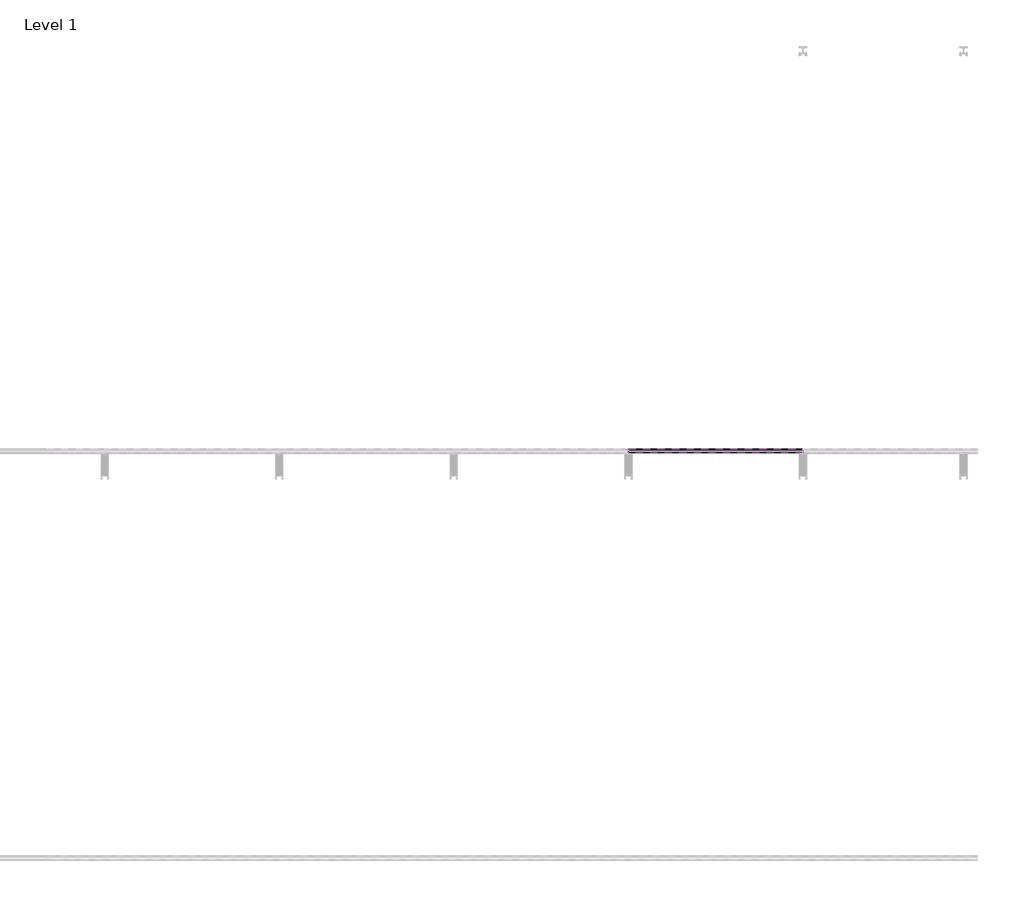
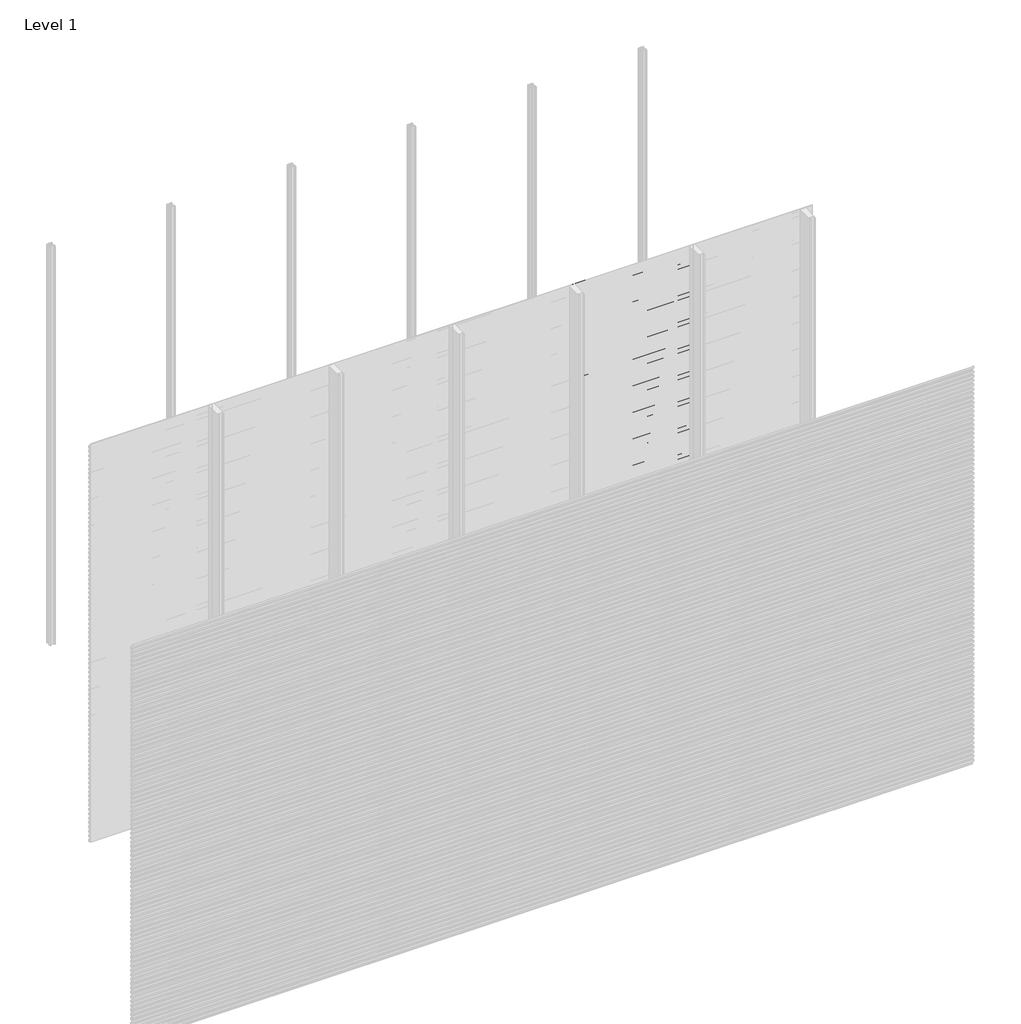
# One storey, part 20 of 96: 76 proxies.
"""IFC4 building model written with IfcOpenShell, lengths in millimetres."""

from ifc_helpers import new_model, si_unit, frame, origin, place, context, project, spatial, polyline, outline, extrude, element, save

model = new_model("IFC4")

# Units and contexts
model_context = context("Model", 3, world=origin())
ifc_project = project(units=[si_unit("LENGTHUNIT", "METRE", prefix="MILLI")], contexts=[model_context])

# Site, building, storey
site = spatial("IfcSite", under=ifc_project)
building = spatial("IfcBuilding", under=site)
storey = spatial("IfcBuildingStorey", under=building, Name="Level 1", Elevation=0.0)

# Proxies
placement = place(None, origin())
element("IfcBuildingElementProxy", 1, Name="Wall Sweeps", at=placement, inside=storey, context=model_context, shape_type="SweptSolid", body=[
    extrude(outline(polyline([(-47977.6, 607.4655033), (-47977.6, 593.1779188), (-47982.4114965, 590.4), (-47982.4114965, 591.6701706), (-47978.85, 593.7264016), (-47978.85, 606.7437382), (-47998.0, 617.8000799), (-47998.0, 632.7), (-47996.75, 632.7), (-47996.75, 618.5217609), (-47977.6, 607.4655033)])), frame((3428.5714286, 0.0, 0.0), z_axis=(1.0, 0.0, 0.0), x_axis=(0.0, 1.0, 0.0)), (0.0, 0.0, 1.0), 857.1428571),
])
element("IfcBuildingElementProxy", 2, Name="Wall Sweeps", at=placement, inside=storey, context=model_context, shape_type="SweptSolid", body=[
    extrude(outline(polyline([(-47977.6, 574.1655033), (-47977.6, 559.8779188), (-47982.4114965, 557.1), (-47982.4114965, 558.3701706), (-47978.85, 560.4264016), (-47978.85, 573.4437382), (-47998.0, 584.5000799), (-47998.0, 599.4), (-47996.75, 599.4), (-47996.75, 585.2217609), (-47977.6, 574.1655033)])), frame((3428.5714286, 0.0, 0.0), z_axis=(1.0, 0.0, 0.0), x_axis=(0.0, 1.0, 0.0)), (0.0, 0.0, 1.0), 857.1428571),
])
element("IfcBuildingElementProxy", 3, Name="Wall Sweeps", at=placement, inside=storey, context=model_context, shape_type="SweptSolid", body=[
    extrude(outline(polyline([(-47977.6, 540.8655033), (-47977.6, 526.5779188), (-47982.4114965, 523.8), (-47982.4114965, 525.0701706), (-47978.85, 527.1264016), (-47978.85, 540.1437382), (-47998.0, 551.2000799), (-47998.0, 566.1), (-47996.75, 566.1), (-47996.75, 551.9217609), (-47977.6, 540.8655033)])), frame((3428.5714286, 0.0, 0.0), z_axis=(1.0, 0.0, 0.0), x_axis=(0.0, 1.0, 0.0)), (0.0, 0.0, 1.0), 857.1428571),
])
element("IfcBuildingElementProxy", 4, Name="Wall Sweeps", at=placement, inside=storey, context=model_context, shape_type="SweptSolid", body=[
    extrude(outline(polyline([(-47977.6, 507.5655033), (-47977.6, 493.2779188), (-47982.4114965, 490.5), (-47982.4114965, 491.7701706), (-47978.85, 493.8264016), (-47978.85, 506.8437382), (-47998.0, 517.9000799), (-47998.0, 532.8), (-47996.75, 532.8), (-47996.75, 518.6217609), (-47977.6, 507.5655033)])), frame((3428.5714286, 0.0, 0.0), z_axis=(1.0, 0.0, 0.0), x_axis=(0.0, 1.0, 0.0)), (0.0, 0.0, 1.0), 857.1428571),
])
element("IfcBuildingElementProxy", 5, Name="Wall Sweeps", at=placement, inside=storey, context=model_context, shape_type="SweptSolid", body=[
    extrude(outline(polyline([(-47977.6, 474.2655033), (-47977.6, 459.9779188), (-47982.4114965, 457.2), (-47982.4114965, 458.4701706), (-47978.85, 460.5264016), (-47978.85, 473.5437382), (-47998.0, 484.6000799), (-47998.0, 499.5), (-47996.75, 499.5), (-47996.75, 485.3217609), (-47977.6, 474.2655033)])), frame((3428.5714286, 0.0, 0.0), z_axis=(1.0, 0.0, 0.0), x_axis=(0.0, 1.0, 0.0)), (0.0, 0.0, 1.0), 857.1428571),
])
element("IfcBuildingElementProxy", 6, Name="Wall Sweeps", at=placement, inside=storey, context=model_context, shape_type="SweptSolid", body=[
    extrude(outline(polyline([(-47977.6, 440.9655033), (-47977.6, 426.6779188), (-47982.4114965, 423.9), (-47982.4114965, 425.1701706), (-47978.85, 427.2264016), (-47978.85, 440.2437382), (-47998.0, 451.3000799), (-47998.0, 466.2), (-47996.75, 466.2), (-47996.75, 452.0217609), (-47977.6, 440.9655033)])), frame((3428.5714286, 0.0, 0.0), z_axis=(1.0, 0.0, 0.0), x_axis=(0.0, 1.0, 0.0)), (0.0, 0.0, 1.0), 857.1428571),
])
element("IfcBuildingElementProxy", 7, Name="Wall Sweeps", at=placement, inside=storey, context=model_context, shape_type="SweptSolid", body=[
    extrude(outline(polyline([(-47977.6, 407.6655033), (-47977.6, 393.3779188), (-47982.4114965, 390.6), (-47982.4114965, 391.8701706), (-47978.85, 393.9264016), (-47978.85, 406.9437382), (-47998.0, 418.0000799), (-47998.0, 432.9), (-47996.75, 432.9), (-47996.75, 418.7217609), (-47977.6, 407.6655033)])), frame((3428.5714286, 0.0, 0.0), z_axis=(1.0, 0.0, 0.0), x_axis=(0.0, 1.0, 0.0)), (0.0, 0.0, 1.0), 857.1428571),
])
element("IfcBuildingElementProxy", 8, Name="Wall Sweeps", at=placement, inside=storey, context=model_context, shape_type="SweptSolid", body=[
    extrude(outline(polyline([(-47977.6, 374.3655033), (-47977.6, 360.0779188), (-47982.4114965, 357.3), (-47982.4114965, 358.5701706), (-47978.85, 360.6264016), (-47978.85, 373.6437382), (-47998.0, 384.7000799), (-47998.0, 399.6), (-47996.75, 399.6), (-47996.75, 385.4217609), (-47977.6, 374.3655033)])), frame((3428.5714286, 0.0, 0.0), z_axis=(1.0, 0.0, 0.0), x_axis=(0.0, 1.0, 0.0)), (0.0, 0.0, 1.0), 857.1428571),
])
element("IfcBuildingElementProxy", 9, Name="Wall Sweeps", at=placement, inside=storey, context=model_context, shape_type="SweptSolid", body=[
    extrude(outline(polyline([(-47977.6, 341.0655033), (-47977.6, 326.7779188), (-47982.4114965, 324.0), (-47982.4114965, 325.2701706), (-47978.85, 327.3264016), (-47978.85, 340.3437382), (-47998.0, 351.4000799), (-47998.0, 366.3), (-47996.75, 366.3), (-47996.75, 352.1217609), (-47977.6, 341.0655033)])), frame((3428.5714286, 0.0, 0.0), z_axis=(1.0, 0.0, 0.0), x_axis=(0.0, 1.0, 0.0)), (0.0, 0.0, 1.0), 857.1428571),
])
element("IfcBuildingElementProxy", 10, Name="Wall Sweeps", at=placement, inside=storey, context=model_context, shape_type="SweptSolid", body=[
    extrude(outline(polyline([(-47977.6, 307.7655033), (-47977.6, 293.4779188), (-47982.4114965, 290.7), (-47982.4114965, 291.9701706), (-47978.85, 294.0264016), (-47978.85, 307.0437382), (-47998.0, 318.1000799), (-47998.0, 333.0), (-47996.75, 333.0), (-47996.75, 318.8217609), (-47977.6, 307.7655033)])), frame((3428.5714286, 0.0, 0.0), z_axis=(1.0, 0.0, 0.0), x_axis=(0.0, 1.0, 0.0)), (0.0, 0.0, 1.0), 857.1428571),
])
element("IfcBuildingElementProxy", 11, Name="Wall Sweeps", at=placement, inside=storey, context=model_context, shape_type="SweptSolid", body=[
    extrude(outline(polyline([(-47977.6, 274.4655033), (-47977.6, 260.1779188), (-47982.4114965, 257.4), (-47982.4114965, 258.6701706), (-47978.85, 260.7264016), (-47978.85, 273.7437382), (-47998.0, 284.8000799), (-47998.0, 299.7), (-47996.75, 299.7), (-47996.75, 285.5217609), (-47977.6, 274.4655033)])), frame((3428.5714286, 0.0, 0.0), z_axis=(1.0, 0.0, 0.0), x_axis=(0.0, 1.0, 0.0)), (0.0, 0.0, 1.0), 857.1428571),
])
element("IfcBuildingElementProxy", 12, Name="Wall Sweeps", at=placement, inside=storey, context=model_context, shape_type="SweptSolid", body=[
    extrude(outline(polyline([(-47977.6, 241.1655033), (-47977.6, 226.8779188), (-47982.4114965, 224.1), (-47982.4114965, 225.3701706), (-47978.85, 227.4264016), (-47978.85, 240.4437382), (-47998.0, 251.5000799), (-47998.0, 266.4), (-47996.75, 266.4), (-47996.75, 252.2217609), (-47977.6, 241.1655033)])), frame((3428.5714286, 0.0, 0.0), z_axis=(1.0, 0.0, 0.0), x_axis=(0.0, 1.0, 0.0)), (0.0, 0.0, 1.0), 857.1428571),
])
element("IfcBuildingElementProxy", 13, Name="Wall Sweeps", at=placement, inside=storey, context=model_context, shape_type="SweptSolid", body=[
    extrude(outline(polyline([(-47977.6, 207.8655033), (-47977.6, 193.5779188), (-47982.4114965, 190.8), (-47982.4114965, 192.0701706), (-47978.85, 194.1264016), (-47978.85, 207.1437382), (-47998.0, 218.2000799), (-47998.0, 233.1), (-47996.75, 233.1), (-47996.75, 218.9217609), (-47977.6, 207.8655033)])), frame((3428.5714286, 0.0, 0.0), z_axis=(1.0, 0.0, 0.0), x_axis=(0.0, 1.0, 0.0)), (0.0, 0.0, 1.0), 857.1428571),
])
element("IfcBuildingElementProxy", 14, Name="Wall Sweeps", at=placement, inside=storey, context=model_context, shape_type="SweptSolid", body=[
    extrude(outline(polyline([(-47977.6, 174.5655033), (-47977.6, 160.2779188), (-47982.4114965, 157.5), (-47982.4114965, 158.7701706), (-47978.85, 160.8264016), (-47978.85, 173.8437382), (-47998.0, 184.9000799), (-47998.0, 199.8), (-47996.75, 199.8), (-47996.75, 185.6217609), (-47977.6, 174.5655033)])), frame((3428.5714286, 0.0, 0.0), z_axis=(1.0, 0.0, 0.0), x_axis=(0.0, 1.0, 0.0)), (0.0, 0.0, 1.0), 857.1428571),
])
element("IfcBuildingElementProxy", 15, Name="Wall Sweeps", at=placement, inside=storey, context=model_context, shape_type="SweptSolid", body=[
    extrude(outline(polyline([(-47977.6, 141.2655033), (-47977.6, 126.9779188), (-47982.4114965, 124.2), (-47982.4114965, 125.4701706), (-47978.85, 127.5264016), (-47978.85, 140.5437382), (-47998.0, 151.6000799), (-47998.0, 166.5), (-47996.75, 166.5), (-47996.75, 152.3217609), (-47977.6, 141.2655033)])), frame((3428.5714286, 0.0, 0.0), z_axis=(1.0, 0.0, 0.0), x_axis=(0.0, 1.0, 0.0)), (0.0, 0.0, 1.0), 857.1428571),
])
element("IfcBuildingElementProxy", 16, Name="Wall Sweeps", at=placement, inside=storey, context=model_context, shape_type="SweptSolid", body=[
    extrude(outline(polyline([(-47977.6, 107.9655033), (-47977.6, 93.6779188), (-47982.4114965, 90.9), (-47982.4114965, 92.1701706), (-47978.85, 94.2264016), (-47978.85, 107.2437382), (-47998.0, 118.3000799), (-47998.0, 133.2), (-47996.75, 133.2), (-47996.75, 119.0217609), (-47977.6, 107.9655033)])), frame((3428.5714286, 0.0, 0.0), z_axis=(1.0, 0.0, 0.0), x_axis=(0.0, 1.0, 0.0)), (0.0, 0.0, 1.0), 857.1428571),
])
element("IfcBuildingElementProxy", 17, Name="Wall Sweeps", at=placement, inside=storey, context=model_context, shape_type="SweptSolid", body=[
    extrude(outline(polyline([(-47977.6, 74.6655033), (-47977.6, 60.3779188), (-47982.4114965, 57.6), (-47982.4114965, 58.8701706), (-47978.85, 60.9264016), (-47978.85, 73.9437382), (-47998.0, 85.0000799), (-47998.0, 99.9), (-47996.75, 99.9), (-47996.75, 85.7217609), (-47977.6, 74.6655033)])), frame((3428.5714286, 0.0, 0.0), z_axis=(1.0, 0.0, 0.0), x_axis=(0.0, 1.0, 0.0)), (0.0, 0.0, 1.0), 857.1428571),
])
element("IfcBuildingElementProxy", 18, Name="Wall Sweeps", at=placement, inside=storey, context=model_context, shape_type="SweptSolid", body=[
    extrude(outline(polyline([(-47977.6, 41.3655033), (-47977.6, 27.0779188), (-47982.4114965, 24.3), (-47982.4114965, 25.5701706), (-47978.85, 27.6264016), (-47978.85, 40.6437382), (-47998.0, 51.7000799), (-47998.0, 66.6), (-47996.75, 66.6), (-47996.75, 52.4217609), (-47977.6, 41.3655033)])), frame((3428.5714286, 0.0, 0.0), z_axis=(1.0, 0.0, 0.0), x_axis=(0.0, 1.0, 0.0)), (0.0, 0.0, 1.0), 857.1428571),
])
element("IfcBuildingElementProxy", 19, Name="Wall Sweeps", at=placement, inside=storey, context=model_context, shape_type="SweptSolid", body=[
    extrude(outline(polyline([(-47977.6, 8.0655033), (-47977.6, -6.2220812), (-47982.4114965, -9.0), (-47982.4114965, -7.7298294), (-47978.85, -5.6735984), (-47978.85, 7.3437382), (-47998.0, 18.4000799), (-47998.0, 33.3), (-47996.75, 33.3), (-47996.75, 19.1217609), (-47977.6, 8.0655033)])), frame((3428.5714286, 0.0, 0.0), z_axis=(1.0, 0.0, 0.0), x_axis=(0.0, 1.0, 0.0)), (0.0, 0.0, 1.0), 857.1428571),
])
element("IfcBuildingElementProxy", 20, Name="Wall Sweeps", at=placement, inside=storey, context=model_context, shape_type="SweptSolid", body=[
    extrude(outline(polyline([(-47977.6, 2971.7655033), (-47977.6, 2957.4779188), (-47982.4114965, 2954.7), (-47982.4114965, 2955.9701706), (-47978.85, 2958.0264016), (-47978.85, 2971.0437382), (-47998.0, 2982.1000799), (-47998.0, 2997.0), (-47996.75, 2997.0), (-47996.75, 2982.8217609), (-47977.6, 2971.7655033)])), frame((4285.7142857, 0.0, 0.0), z_axis=(1.0, 0.0, 0.0), x_axis=(0.0, 1.0, 0.0)), (0.0, 0.0, 1.0), 857.1428571),
])
element("IfcBuildingElementProxy", 21, Name="Wall Sweeps", at=placement, inside=storey, context=model_context, shape_type="SweptSolid", body=[
    extrude(outline(polyline([(-47977.6, 2938.4655033), (-47977.6, 2924.1779188), (-47982.4114965, 2921.4), (-47982.4114965, 2922.6701706), (-47978.85, 2924.7264016), (-47978.85, 2937.7437382), (-47998.0, 2948.8000799), (-47998.0, 2963.7), (-47996.75, 2963.7), (-47996.75, 2949.5217609), (-47977.6, 2938.4655033)])), frame((4285.7142857, 0.0, 0.0), z_axis=(1.0, 0.0, 0.0), x_axis=(0.0, 1.0, 0.0)), (0.0, 0.0, 1.0), 857.1428571),
])
element("IfcBuildingElementProxy", 22, Name="Wall Sweeps", at=placement, inside=storey, context=model_context, shape_type="SweptSolid", body=[
    extrude(outline(polyline([(-47977.6, 2905.1655033), (-47977.6, 2890.8779188), (-47982.4114965, 2888.1), (-47982.4114965, 2889.3701706), (-47978.85, 2891.4264016), (-47978.85, 2904.4437382), (-47998.0, 2915.5000799), (-47998.0, 2930.4), (-47996.75, 2930.4), (-47996.75, 2916.2217609), (-47977.6, 2905.1655033)])), frame((4285.7142857, 0.0, 0.0), z_axis=(1.0, 0.0, 0.0), x_axis=(0.0, 1.0, 0.0)), (0.0, 0.0, 1.0), 857.1428571),
])
element("IfcBuildingElementProxy", 23, Name="Wall Sweeps", at=placement, inside=storey, context=model_context, shape_type="SweptSolid", body=[
    extrude(outline(polyline([(-47977.6, 2871.8655033), (-47977.6, 2857.5779188), (-47982.4114965, 2854.8), (-47982.4114965, 2856.0701706), (-47978.85, 2858.1264016), (-47978.85, 2871.1437382), (-47998.0, 2882.2000799), (-47998.0, 2897.1), (-47996.75, 2897.1), (-47996.75, 2882.9217609), (-47977.6, 2871.8655033)])), frame((4285.7142857, 0.0, 0.0), z_axis=(1.0, 0.0, 0.0), x_axis=(0.0, 1.0, 0.0)), (0.0, 0.0, 1.0), 857.1428571),
])
element("IfcBuildingElementProxy", 24, Name="Wall Sweeps", at=placement, inside=storey, context=model_context, shape_type="SweptSolid", body=[
    extrude(outline(polyline([(-47977.6, 2838.5655033), (-47977.6, 2824.2779188), (-47982.4114965, 2821.5), (-47982.4114965, 2822.7701706), (-47978.85, 2824.8264016), (-47978.85, 2837.8437382), (-47998.0, 2848.9000799), (-47998.0, 2863.8), (-47996.75, 2863.8), (-47996.75, 2849.6217609), (-47977.6, 2838.5655033)])), frame((4285.7142857, 0.0, 0.0), z_axis=(1.0, 0.0, 0.0), x_axis=(0.0, 1.0, 0.0)), (0.0, 0.0, 1.0), 857.1428571),
])
element("IfcBuildingElementProxy", 25, Name="Wall Sweeps", at=placement, inside=storey, context=model_context, shape_type="SweptSolid", body=[
    extrude(outline(polyline([(-47977.6, 2805.2655033), (-47977.6, 2790.9779188), (-47982.4114965, 2788.2), (-47982.4114965, 2789.4701706), (-47978.85, 2791.5264016), (-47978.85, 2804.5437382), (-47998.0, 2815.6000799), (-47998.0, 2830.5), (-47996.75, 2830.5), (-47996.75, 2816.3217609), (-47977.6, 2805.2655033)])), frame((4285.7142857, 0.0, 0.0), z_axis=(1.0, 0.0, 0.0), x_axis=(0.0, 1.0, 0.0)), (0.0, 0.0, 1.0), 857.1428571),
])
element("IfcBuildingElementProxy", 26, Name="Wall Sweeps", at=placement, inside=storey, context=model_context, shape_type="SweptSolid", body=[
    extrude(outline(polyline([(-47977.6, 2771.9655033), (-47977.6, 2757.6779188), (-47982.4114965, 2754.9), (-47982.4114965, 2756.1701706), (-47978.85, 2758.2264016), (-47978.85, 2771.2437382), (-47998.0, 2782.3000799), (-47998.0, 2797.2), (-47996.75, 2797.2), (-47996.75, 2783.0217609), (-47977.6, 2771.9655033)])), frame((4285.7142857, 0.0, 0.0), z_axis=(1.0, 0.0, 0.0), x_axis=(0.0, 1.0, 0.0)), (0.0, 0.0, 1.0), 857.1428571),
])
element("IfcBuildingElementProxy", 27, Name="Wall Sweeps", at=placement, inside=storey, context=model_context, shape_type="SweptSolid", body=[
    extrude(outline(polyline([(-47977.6, 2738.6655033), (-47977.6, 2724.3779188), (-47982.4114965, 2721.6), (-47982.4114965, 2722.8701706), (-47978.85, 2724.9264016), (-47978.85, 2737.9437382), (-47998.0, 2749.0000799), (-47998.0, 2763.9), (-47996.75, 2763.9), (-47996.75, 2749.7217609), (-47977.6, 2738.6655033)])), frame((4285.7142857, 0.0, 0.0), z_axis=(1.0, 0.0, 0.0), x_axis=(0.0, 1.0, 0.0)), (0.0, 0.0, 1.0), 857.1428571),
])
element("IfcBuildingElementProxy", 28, Name="Wall Sweeps", at=placement, inside=storey, context=model_context, shape_type="SweptSolid", body=[
    extrude(outline(polyline([(-47977.6, 2705.3655033), (-47977.6, 2691.0779188), (-47982.4114965, 2688.3), (-47982.4114965, 2689.5701706), (-47978.85, 2691.6264016), (-47978.85, 2704.6437382), (-47998.0, 2715.7000799), (-47998.0, 2730.6), (-47996.75, 2730.6), (-47996.75, 2716.4217609), (-47977.6, 2705.3655033)])), frame((4285.7142857, 0.0, 0.0), z_axis=(1.0, 0.0, 0.0), x_axis=(0.0, 1.0, 0.0)), (0.0, 0.0, 1.0), 857.1428571),
])
element("IfcBuildingElementProxy", 29, Name="Wall Sweeps", at=placement, inside=storey, context=model_context, shape_type="SweptSolid", body=[
    extrude(outline(polyline([(-47977.6, 2672.0655033), (-47977.6, 2657.7779188), (-47982.4114965, 2655.0), (-47982.4114965, 2656.2701706), (-47978.85, 2658.3264016), (-47978.85, 2671.3437382), (-47998.0, 2682.4000799), (-47998.0, 2697.3), (-47996.75, 2697.3), (-47996.75, 2683.1217609), (-47977.6, 2672.0655033)])), frame((4285.7142857, 0.0, 0.0), z_axis=(1.0, 0.0, 0.0), x_axis=(0.0, 1.0, 0.0)), (0.0, 0.0, 1.0), 857.1428571),
])
element("IfcBuildingElementProxy", 30, Name="Wall Sweeps", at=placement, inside=storey, context=model_context, shape_type="SweptSolid", body=[
    extrude(outline(polyline([(-47977.6, 2638.7655033), (-47977.6, 2624.4779188), (-47982.4114965, 2621.7), (-47982.4114965, 2622.9701706), (-47978.85, 2625.0264016), (-47978.85, 2638.0437382), (-47998.0, 2649.1000799), (-47998.0, 2664.0), (-47996.75, 2664.0), (-47996.75, 2649.8217609), (-47977.6, 2638.7655033)])), frame((4285.7142857, 0.0, 0.0), z_axis=(1.0, 0.0, 0.0), x_axis=(0.0, 1.0, 0.0)), (0.0, 0.0, 1.0), 857.1428571),
])
element("IfcBuildingElementProxy", 31, Name="Wall Sweeps", at=placement, inside=storey, context=model_context, shape_type="SweptSolid", body=[
    extrude(outline(polyline([(-47977.6, 2605.4655033), (-47977.6, 2591.1779188), (-47982.4114965, 2588.4), (-47982.4114965, 2589.6701706), (-47978.85, 2591.7264016), (-47978.85, 2604.7437382), (-47998.0, 2615.8000799), (-47998.0, 2630.7), (-47996.75, 2630.7), (-47996.75, 2616.5217609), (-47977.6, 2605.4655033)])), frame((4285.7142857, 0.0, 0.0), z_axis=(1.0, 0.0, 0.0), x_axis=(0.0, 1.0, 0.0)), (0.0, 0.0, 1.0), 857.1428571),
])
element("IfcBuildingElementProxy", 32, Name="Wall Sweeps", at=placement, inside=storey, context=model_context, shape_type="SweptSolid", body=[
    extrude(outline(polyline([(-47977.6, 2572.1655033), (-47977.6, 2557.8779188), (-47982.4114965, 2555.1), (-47982.4114965, 2556.3701706), (-47978.85, 2558.4264016), (-47978.85, 2571.4437382), (-47998.0, 2582.5000799), (-47998.0, 2597.4), (-47996.75, 2597.4), (-47996.75, 2583.2217609), (-47977.6, 2572.1655033)])), frame((4285.7142857, 0.0, 0.0), z_axis=(1.0, 0.0, 0.0), x_axis=(0.0, 1.0, 0.0)), (0.0, 0.0, 1.0), 857.1428571),
])
element("IfcBuildingElementProxy", 33, Name="Wall Sweeps", at=placement, inside=storey, context=model_context, shape_type="SweptSolid", body=[
    extrude(outline(polyline([(-47977.6, 2538.8655033), (-47977.6, 2524.5779188), (-47982.4114965, 2521.8), (-47982.4114965, 2523.0701706), (-47978.85, 2525.1264016), (-47978.85, 2538.1437382), (-47998.0, 2549.2000799), (-47998.0, 2564.1), (-47996.75, 2564.1), (-47996.75, 2549.9217609), (-47977.6, 2538.8655033)])), frame((4285.7142857, 0.0, 0.0), z_axis=(1.0, 0.0, 0.0), x_axis=(0.0, 1.0, 0.0)), (0.0, 0.0, 1.0), 857.1428571),
])
element("IfcBuildingElementProxy", 34, Name="Wall Sweeps", at=placement, inside=storey, context=model_context, shape_type="SweptSolid", body=[
    extrude(outline(polyline([(-47977.6, 2505.5655033), (-47977.6, 2491.2779188), (-47982.4114965, 2488.5), (-47982.4114965, 2489.7701706), (-47978.85, 2491.8264016), (-47978.85, 2504.8437382), (-47998.0, 2515.9000799), (-47998.0, 2530.8), (-47996.75, 2530.8), (-47996.75, 2516.6217609), (-47977.6, 2505.5655033)])), frame((4285.7142857, 0.0, 0.0), z_axis=(1.0, 0.0, 0.0), x_axis=(0.0, 1.0, 0.0)), (0.0, 0.0, 1.0), 857.1428571),
])
element("IfcBuildingElementProxy", 35, Name="Wall Sweeps", at=placement, inside=storey, context=model_context, shape_type="SweptSolid", body=[
    extrude(outline(polyline([(-47977.6, 2472.2655033), (-47977.6, 2457.9779188), (-47982.4114965, 2455.2), (-47982.4114965, 2456.4701706), (-47978.85, 2458.5264016), (-47978.85, 2471.5437382), (-47998.0, 2482.6000799), (-47998.0, 2497.5), (-47996.75, 2497.5), (-47996.75, 2483.3217609), (-47977.6, 2472.2655033)])), frame((4285.7142857, 0.0, 0.0), z_axis=(1.0, 0.0, 0.0), x_axis=(0.0, 1.0, 0.0)), (0.0, 0.0, 1.0), 857.1428571),
])
element("IfcBuildingElementProxy", 36, Name="Wall Sweeps", at=placement, inside=storey, context=model_context, shape_type="SweptSolid", body=[
    extrude(outline(polyline([(-47977.6, 2438.9655033), (-47977.6, 2424.6779188), (-47982.4114965, 2421.9), (-47982.4114965, 2423.1701706), (-47978.85, 2425.2264016), (-47978.85, 2438.2437382), (-47998.0, 2449.3000799), (-47998.0, 2464.2), (-47996.75, 2464.2), (-47996.75, 2450.0217609), (-47977.6, 2438.9655033)])), frame((4285.7142857, 0.0, 0.0), z_axis=(1.0, 0.0, 0.0), x_axis=(0.0, 1.0, 0.0)), (0.0, 0.0, 1.0), 857.1428571),
])
element("IfcBuildingElementProxy", 37, Name="Wall Sweeps", at=placement, inside=storey, context=model_context, shape_type="SweptSolid", body=[
    extrude(outline(polyline([(-47977.6, 2405.6655033), (-47977.6, 2391.3779188), (-47982.4114965, 2388.6), (-47982.4114965, 2389.8701706), (-47978.85, 2391.9264016), (-47978.85, 2404.9437382), (-47998.0, 2416.0000799), (-47998.0, 2430.9), (-47996.75, 2430.9), (-47996.75, 2416.7217609), (-47977.6, 2405.6655033)])), frame((4285.7142857, 0.0, 0.0), z_axis=(1.0, 0.0, 0.0), x_axis=(0.0, 1.0, 0.0)), (0.0, 0.0, 1.0), 857.1428571),
])
element("IfcBuildingElementProxy", 38, Name="Wall Sweeps", at=placement, inside=storey, context=model_context, shape_type="SweptSolid", body=[
    extrude(outline(polyline([(-47977.6, 2372.3655033), (-47977.6, 2358.0779188), (-47982.4114965, 2355.3), (-47982.4114965, 2356.5701706), (-47978.85, 2358.6264016), (-47978.85, 2371.6437382), (-47998.0, 2382.7000799), (-47998.0, 2397.6), (-47996.75, 2397.6), (-47996.75, 2383.4217609), (-47977.6, 2372.3655033)])), frame((4285.7142857, 0.0, 0.0), z_axis=(1.0, 0.0, 0.0), x_axis=(0.0, 1.0, 0.0)), (0.0, 0.0, 1.0), 857.1428571),
])
element("IfcBuildingElementProxy", 39, Name="Wall Sweeps", at=placement, inside=storey, context=model_context, shape_type="SweptSolid", body=[
    extrude(outline(polyline([(-47977.6, 2339.0655033), (-47977.6, 2324.7779188), (-47982.4114965, 2322.0), (-47982.4114965, 2323.2701706), (-47978.85, 2325.3264016), (-47978.85, 2338.3437382), (-47998.0, 2349.4000799), (-47998.0, 2364.3), (-47996.75, 2364.3), (-47996.75, 2350.1217609), (-47977.6, 2339.0655033)])), frame((4285.7142857, 0.0, 0.0), z_axis=(1.0, 0.0, 0.0), x_axis=(0.0, 1.0, 0.0)), (0.0, 0.0, 1.0), 857.1428571),
])
element("IfcBuildingElementProxy", 40, Name="Wall Sweeps", at=placement, inside=storey, context=model_context, shape_type="SweptSolid", body=[
    extrude(outline(polyline([(-47977.6, 2305.7655033), (-47977.6, 2291.4779188), (-47982.4114965, 2288.7), (-47982.4114965, 2289.9701706), (-47978.85, 2292.0264016), (-47978.85, 2305.0437382), (-47998.0, 2316.1000799), (-47998.0, 2331.0), (-47996.75, 2331.0), (-47996.75, 2316.8217609), (-47977.6, 2305.7655033)])), frame((4285.7142857, 0.0, 0.0), z_axis=(1.0, 0.0, 0.0), x_axis=(0.0, 1.0, 0.0)), (0.0, 0.0, 1.0), 857.1428571),
])
element("IfcBuildingElementProxy", 41, Name="Wall Sweeps", at=placement, inside=storey, context=model_context, shape_type="SweptSolid", body=[
    extrude(outline(polyline([(-47977.6, 2272.4655033), (-47977.6, 2258.1779188), (-47982.4114965, 2255.4), (-47982.4114965, 2256.6701706), (-47978.85, 2258.7264016), (-47978.85, 2271.7437382), (-47998.0, 2282.8000799), (-47998.0, 2297.7), (-47996.75, 2297.7), (-47996.75, 2283.5217609), (-47977.6, 2272.4655033)])), frame((4285.7142857, 0.0, 0.0), z_axis=(1.0, 0.0, 0.0), x_axis=(0.0, 1.0, 0.0)), (0.0, 0.0, 1.0), 857.1428571),
])
element("IfcBuildingElementProxy", 42, Name="Wall Sweeps", at=placement, inside=storey, context=model_context, shape_type="SweptSolid", body=[
    extrude(outline(polyline([(-47977.6, 2239.1655033), (-47977.6, 2224.8779188), (-47982.4114965, 2222.1), (-47982.4114965, 2223.3701706), (-47978.85, 2225.4264016), (-47978.85, 2238.4437382), (-47998.0, 2249.5000799), (-47998.0, 2264.4), (-47996.75, 2264.4), (-47996.75, 2250.2217609), (-47977.6, 2239.1655033)])), frame((4285.7142857, 0.0, 0.0), z_axis=(1.0, 0.0, 0.0), x_axis=(0.0, 1.0, 0.0)), (0.0, 0.0, 1.0), 857.1428571),
])
element("IfcBuildingElementProxy", 43, Name="Wall Sweeps", at=placement, inside=storey, context=model_context, shape_type="SweptSolid", body=[
    extrude(outline(polyline([(-47977.6, 2205.8655033), (-47977.6, 2191.5779188), (-47982.4114965, 2188.8), (-47982.4114965, 2190.0701706), (-47978.85, 2192.1264016), (-47978.85, 2205.1437382), (-47998.0, 2216.2000799), (-47998.0, 2231.1), (-47996.75, 2231.1), (-47996.75, 2216.9217609), (-47977.6, 2205.8655033)])), frame((4285.7142857, 0.0, 0.0), z_axis=(1.0, 0.0, 0.0), x_axis=(0.0, 1.0, 0.0)), (0.0, 0.0, 1.0), 857.1428571),
])
element("IfcBuildingElementProxy", 44, Name="Wall Sweeps", at=placement, inside=storey, context=model_context, shape_type="SweptSolid", body=[
    extrude(outline(polyline([(-47977.6, 2172.5655033), (-47977.6, 2158.2779188), (-47982.4114965, 2155.5), (-47982.4114965, 2156.7701706), (-47978.85, 2158.8264016), (-47978.85, 2171.8437382), (-47998.0, 2182.9000799), (-47998.0, 2197.8), (-47996.75, 2197.8), (-47996.75, 2183.6217609), (-47977.6, 2172.5655033)])), frame((4285.7142857, 0.0, 0.0), z_axis=(1.0, 0.0, 0.0), x_axis=(0.0, 1.0, 0.0)), (0.0, 0.0, 1.0), 857.1428571),
])
element("IfcBuildingElementProxy", 45, Name="Wall Sweeps", at=placement, inside=storey, context=model_context, shape_type="SweptSolid", body=[
    extrude(outline(polyline([(-47977.6, 2139.2655033), (-47977.6, 2124.9779188), (-47982.4114965, 2122.2), (-47982.4114965, 2123.4701706), (-47978.85, 2125.5264016), (-47978.85, 2138.5437382), (-47998.0, 2149.6000799), (-47998.0, 2164.5), (-47996.75, 2164.5), (-47996.75, 2150.3217609), (-47977.6, 2139.2655033)])), frame((4285.7142857, 0.0, 0.0), z_axis=(1.0, 0.0, 0.0), x_axis=(0.0, 1.0, 0.0)), (0.0, 0.0, 1.0), 857.1428571),
])
element("IfcBuildingElementProxy", 46, Name="Wall Sweeps", at=placement, inside=storey, context=model_context, shape_type="SweptSolid", body=[
    extrude(outline(polyline([(-47977.6, 2105.9655033), (-47977.6, 2091.6779188), (-47982.4114965, 2088.9), (-47982.4114965, 2090.1701706), (-47978.85, 2092.2264016), (-47978.85, 2105.2437382), (-47998.0, 2116.3000799), (-47998.0, 2131.2), (-47996.75, 2131.2), (-47996.75, 2117.0217609), (-47977.6, 2105.9655033)])), frame((4285.7142857, 0.0, 0.0), z_axis=(1.0, 0.0, 0.0), x_axis=(0.0, 1.0, 0.0)), (0.0, 0.0, 1.0), 857.1428571),
])
element("IfcBuildingElementProxy", 47, Name="Wall Sweeps", at=placement, inside=storey, context=model_context, shape_type="SweptSolid", body=[
    extrude(outline(polyline([(-47977.6, 2072.6655033), (-47977.6, 2058.3779188), (-47982.4114965, 2055.6), (-47982.4114965, 2056.8701706), (-47978.85, 2058.9264016), (-47978.85, 2071.9437382), (-47998.0, 2083.0000799), (-47998.0, 2097.9), (-47996.75, 2097.9), (-47996.75, 2083.7217609), (-47977.6, 2072.6655033)])), frame((4285.7142857, 0.0, 0.0), z_axis=(1.0, 0.0, 0.0), x_axis=(0.0, 1.0, 0.0)), (0.0, 0.0, 1.0), 857.1428571),
])
element("IfcBuildingElementProxy", 48, Name="Wall Sweeps", at=placement, inside=storey, context=model_context, shape_type="SweptSolid", body=[
    extrude(outline(polyline([(-47977.6, 2039.3655033), (-47977.6, 2025.0779188), (-47982.4114965, 2022.3), (-47982.4114965, 2023.5701706), (-47978.85, 2025.6264016), (-47978.85, 2038.6437382), (-47998.0, 2049.7000799), (-47998.0, 2064.6), (-47996.75, 2064.6), (-47996.75, 2050.4217609), (-47977.6, 2039.3655033)])), frame((4285.7142857, 0.0, 0.0), z_axis=(1.0, 0.0, 0.0), x_axis=(0.0, 1.0, 0.0)), (0.0, 0.0, 1.0), 857.1428571),
])
element("IfcBuildingElementProxy", 49, Name="Wall Sweeps", at=placement, inside=storey, context=model_context, shape_type="SweptSolid", body=[
    extrude(outline(polyline([(-47977.6, 2006.0655033), (-47977.6, 1991.7779188), (-47982.4114965, 1989.0), (-47982.4114965, 1990.2701706), (-47978.85, 1992.3264016), (-47978.85, 2005.3437382), (-47998.0, 2016.4000799), (-47998.0, 2031.3), (-47996.75, 2031.3), (-47996.75, 2017.1217609), (-47977.6, 2006.0655033)])), frame((4285.7142857, 0.0, 0.0), z_axis=(1.0, 0.0, 0.0), x_axis=(0.0, 1.0, 0.0)), (0.0, 0.0, 1.0), 857.1428571),
])
element("IfcBuildingElementProxy", 50, Name="Wall Sweeps", at=placement, inside=storey, context=model_context, shape_type="SweptSolid", body=[
    extrude(outline(polyline([(-47977.6, 1972.7655033), (-47977.6, 1958.4779188), (-47982.4114965, 1955.7), (-47982.4114965, 1956.9701706), (-47978.85, 1959.0264016), (-47978.85, 1972.0437382), (-47998.0, 1983.1000799), (-47998.0, 1998.0), (-47996.75, 1998.0), (-47996.75, 1983.8217609), (-47977.6, 1972.7655033)])), frame((4285.7142857, 0.0, 0.0), z_axis=(1.0, 0.0, 0.0), x_axis=(0.0, 1.0, 0.0)), (0.0, 0.0, 1.0), 857.1428571),
])
element("IfcBuildingElementProxy", 51, Name="Wall Sweeps", at=placement, inside=storey, context=model_context, shape_type="SweptSolid", body=[
    extrude(outline(polyline([(-47977.6, 1939.4655033), (-47977.6, 1925.1779188), (-47982.4114965, 1922.4), (-47982.4114965, 1923.6701706), (-47978.85, 1925.7264016), (-47978.85, 1938.7437382), (-47998.0, 1949.8000799), (-47998.0, 1964.7), (-47996.75, 1964.7), (-47996.75, 1950.5217609), (-47977.6, 1939.4655033)])), frame((4285.7142857, 0.0, 0.0), z_axis=(1.0, 0.0, 0.0), x_axis=(0.0, 1.0, 0.0)), (0.0, 0.0, 1.0), 857.1428571),
])
element("IfcBuildingElementProxy", 52, Name="Wall Sweeps", at=placement, inside=storey, context=model_context, shape_type="SweptSolid", body=[
    extrude(outline(polyline([(-47977.6, 1906.1655033), (-47977.6, 1891.8779188), (-47982.4114965, 1889.1), (-47982.4114965, 1890.3701706), (-47978.85, 1892.4264016), (-47978.85, 1905.4437382), (-47998.0, 1916.5000799), (-47998.0, 1931.4), (-47996.75, 1931.4), (-47996.75, 1917.2217609), (-47977.6, 1906.1655033)])), frame((4285.7142857, 0.0, 0.0), z_axis=(1.0, 0.0, 0.0), x_axis=(0.0, 1.0, 0.0)), (0.0, 0.0, 1.0), 857.1428571),
])
element("IfcBuildingElementProxy", 53, Name="Wall Sweeps", at=placement, inside=storey, context=model_context, shape_type="SweptSolid", body=[
    extrude(outline(polyline([(-47977.6, 1872.8655033), (-47977.6, 1858.5779188), (-47982.4114965, 1855.8), (-47982.4114965, 1857.0701706), (-47978.85, 1859.1264016), (-47978.85, 1872.1437382), (-47998.0, 1883.2000799), (-47998.0, 1898.1), (-47996.75, 1898.1), (-47996.75, 1883.9217609), (-47977.6, 1872.8655033)])), frame((4285.7142857, 0.0, 0.0), z_axis=(1.0, 0.0, 0.0), x_axis=(0.0, 1.0, 0.0)), (0.0, 0.0, 1.0), 857.1428571),
])
element("IfcBuildingElementProxy", 54, Name="Wall Sweeps", at=placement, inside=storey, context=model_context, shape_type="SweptSolid", body=[
    extrude(outline(polyline([(-47977.6, 1839.5655033), (-47977.6, 1825.2779188), (-47982.4114965, 1822.5), (-47982.4114965, 1823.7701706), (-47978.85, 1825.8264016), (-47978.85, 1838.8437382), (-47998.0, 1849.9000799), (-47998.0, 1864.8), (-47996.75, 1864.8), (-47996.75, 1850.6217609), (-47977.6, 1839.5655033)])), frame((4285.7142857, 0.0, 0.0), z_axis=(1.0, 0.0, 0.0), x_axis=(0.0, 1.0, 0.0)), (0.0, 0.0, 1.0), 857.1428571),
])
element("IfcBuildingElementProxy", 55, Name="Wall Sweeps", at=placement, inside=storey, context=model_context, shape_type="SweptSolid", body=[
    extrude(outline(polyline([(-47977.6, 1806.2655033), (-47977.6, 1791.9779188), (-47982.4114965, 1789.2), (-47982.4114965, 1790.4701706), (-47978.85, 1792.5264016), (-47978.85, 1805.5437382), (-47998.0, 1816.6000799), (-47998.0, 1831.5), (-47996.75, 1831.5), (-47996.75, 1817.3217609), (-47977.6, 1806.2655033)])), frame((4285.7142857, 0.0, 0.0), z_axis=(1.0, 0.0, 0.0), x_axis=(0.0, 1.0, 0.0)), (0.0, 0.0, 1.0), 857.1428571),
])
element("IfcBuildingElementProxy", 56, Name="Wall Sweeps", at=placement, inside=storey, context=model_context, shape_type="SweptSolid", body=[
    extrude(outline(polyline([(-47977.6, 1772.9655033), (-47977.6, 1758.6779188), (-47982.4114965, 1755.9), (-47982.4114965, 1757.1701706), (-47978.85, 1759.2264016), (-47978.85, 1772.2437382), (-47998.0, 1783.3000799), (-47998.0, 1798.2), (-47996.75, 1798.2), (-47996.75, 1784.0217609), (-47977.6, 1772.9655033)])), frame((4285.7142857, 0.0, 0.0), z_axis=(1.0, 0.0, 0.0), x_axis=(0.0, 1.0, 0.0)), (0.0, 0.0, 1.0), 857.1428571),
])
element("IfcBuildingElementProxy", 57, Name="Wall Sweeps", at=placement, inside=storey, context=model_context, shape_type="SweptSolid", body=[
    extrude(outline(polyline([(-47977.6, 1739.6655033), (-47977.6, 1725.3779188), (-47982.4114965, 1722.6), (-47982.4114965, 1723.8701706), (-47978.85, 1725.9264016), (-47978.85, 1738.9437382), (-47998.0, 1750.0000799), (-47998.0, 1764.9), (-47996.75, 1764.9), (-47996.75, 1750.7217609), (-47977.6, 1739.6655033)])), frame((4285.7142857, 0.0, 0.0), z_axis=(1.0, 0.0, 0.0), x_axis=(0.0, 1.0, 0.0)), (0.0, 0.0, 1.0), 857.1428571),
])
element("IfcBuildingElementProxy", 58, Name="Wall Sweeps", at=placement, inside=storey, context=model_context, shape_type="SweptSolid", body=[
    extrude(outline(polyline([(-47977.6, 1706.3655033), (-47977.6, 1692.0779188), (-47982.4114965, 1689.3), (-47982.4114965, 1690.5701706), (-47978.85, 1692.6264016), (-47978.85, 1705.6437382), (-47998.0, 1716.7000799), (-47998.0, 1731.6), (-47996.75, 1731.6), (-47996.75, 1717.4217609), (-47977.6, 1706.3655033)])), frame((4285.7142857, 0.0, 0.0), z_axis=(1.0, 0.0, 0.0), x_axis=(0.0, 1.0, 0.0)), (0.0, 0.0, 1.0), 857.1428571),
])
element("IfcBuildingElementProxy", 59, Name="Wall Sweeps", at=placement, inside=storey, context=model_context, shape_type="SweptSolid", body=[
    extrude(outline(polyline([(-47977.6, 1673.0655033), (-47977.6, 1658.7779188), (-47982.4114965, 1656.0), (-47982.4114965, 1657.2701706), (-47978.85, 1659.3264016), (-47978.85, 1672.3437382), (-47998.0, 1683.4000799), (-47998.0, 1698.3), (-47996.75, 1698.3), (-47996.75, 1684.1217609), (-47977.6, 1673.0655033)])), frame((4285.7142857, 0.0, 0.0), z_axis=(1.0, 0.0, 0.0), x_axis=(0.0, 1.0, 0.0)), (0.0, 0.0, 1.0), 857.1428571),
])
element("IfcBuildingElementProxy", 60, Name="Wall Sweeps", at=placement, inside=storey, context=model_context, shape_type="SweptSolid", body=[
    extrude(outline(polyline([(-47977.6, 1639.7655033), (-47977.6, 1625.4779188), (-47982.4114965, 1622.7), (-47982.4114965, 1623.9701706), (-47978.85, 1626.0264016), (-47978.85, 1639.0437382), (-47998.0, 1650.1000799), (-47998.0, 1665.0), (-47996.75, 1665.0), (-47996.75, 1650.8217609), (-47977.6, 1639.7655033)])), frame((4285.7142857, 0.0, 0.0), z_axis=(1.0, 0.0, 0.0), x_axis=(0.0, 1.0, 0.0)), (0.0, 0.0, 1.0), 857.1428571),
])
element("IfcBuildingElementProxy", 61, Name="Wall Sweeps", at=placement, inside=storey, context=model_context, shape_type="SweptSolid", body=[
    extrude(outline(polyline([(-47977.6, 1606.4655033), (-47977.6, 1592.1779188), (-47982.4114965, 1589.4), (-47982.4114965, 1590.6701706), (-47978.85, 1592.7264016), (-47978.85, 1605.7437382), (-47998.0, 1616.8000799), (-47998.0, 1631.7), (-47996.75, 1631.7), (-47996.75, 1617.5217609), (-47977.6, 1606.4655033)])), frame((4285.7142857, 0.0, 0.0), z_axis=(1.0, 0.0, 0.0), x_axis=(0.0, 1.0, 0.0)), (0.0, 0.0, 1.0), 857.1428571),
])
element("IfcBuildingElementProxy", 62, Name="Wall Sweeps", at=placement, inside=storey, context=model_context, shape_type="SweptSolid", body=[
    extrude(outline(polyline([(-47977.6, 1573.1655033), (-47977.6, 1558.8779188), (-47982.4114965, 1556.1), (-47982.4114965, 1557.3701706), (-47978.85, 1559.4264016), (-47978.85, 1572.4437382), (-47998.0, 1583.5000799), (-47998.0, 1598.4), (-47996.75, 1598.4), (-47996.75, 1584.2217609), (-47977.6, 1573.1655033)])), frame((4285.7142857, 0.0, 0.0), z_axis=(1.0, 0.0, 0.0), x_axis=(0.0, 1.0, 0.0)), (0.0, 0.0, 1.0), 857.1428571),
])
element("IfcBuildingElementProxy", 63, Name="Wall Sweeps", at=placement, inside=storey, context=model_context, shape_type="SweptSolid", body=[
    extrude(outline(polyline([(-47977.6, 1539.8655033), (-47977.6, 1525.5779188), (-47982.4114965, 1522.8), (-47982.4114965, 1524.0701706), (-47978.85, 1526.1264016), (-47978.85, 1539.1437382), (-47998.0, 1550.2000799), (-47998.0, 1565.1), (-47996.75, 1565.1), (-47996.75, 1550.9217609), (-47977.6, 1539.8655033)])), frame((4285.7142857, 0.0, 0.0), z_axis=(1.0, 0.0, 0.0), x_axis=(0.0, 1.0, 0.0)), (0.0, 0.0, 1.0), 857.1428571),
])
element("IfcBuildingElementProxy", 64, Name="Wall Sweeps", at=placement, inside=storey, context=model_context, shape_type="SweptSolid", body=[
    extrude(outline(polyline([(-47977.6, 1506.5655033), (-47977.6, 1492.2779188), (-47982.4114965, 1489.5), (-47982.4114965, 1490.7701706), (-47978.85, 1492.8264016), (-47978.85, 1505.8437382), (-47998.0, 1516.9000799), (-47998.0, 1531.8), (-47996.75, 1531.8), (-47996.75, 1517.6217609), (-47977.6, 1506.5655033)])), frame((4285.7142857, 0.0, 0.0), z_axis=(1.0, 0.0, 0.0), x_axis=(0.0, 1.0, 0.0)), (0.0, 0.0, 1.0), 857.1428571),
])
element("IfcBuildingElementProxy", 65, Name="Wall Sweeps", at=placement, inside=storey, context=model_context, shape_type="SweptSolid", body=[
    extrude(outline(polyline([(-47977.6, 1473.2655033), (-47977.6, 1458.9779188), (-47982.4114965, 1456.2), (-47982.4114965, 1457.4701706), (-47978.85, 1459.5264016), (-47978.85, 1472.5437382), (-47998.0, 1483.6000799), (-47998.0, 1498.5), (-47996.75, 1498.5), (-47996.75, 1484.3217609), (-47977.6, 1473.2655033)])), frame((4285.7142857, 0.0, 0.0), z_axis=(1.0, 0.0, 0.0), x_axis=(0.0, 1.0, 0.0)), (0.0, 0.0, 1.0), 857.1428571),
])
element("IfcBuildingElementProxy", 66, Name="Wall Sweeps", at=placement, inside=storey, context=model_context, shape_type="SweptSolid", body=[
    extrude(outline(polyline([(-47977.6, 1439.9655033), (-47977.6, 1425.6779188), (-47982.4114965, 1422.9), (-47982.4114965, 1424.1701706), (-47978.85, 1426.2264016), (-47978.85, 1439.2437382), (-47998.0, 1450.3000799), (-47998.0, 1465.2), (-47996.75, 1465.2), (-47996.75, 1451.0217609), (-47977.6, 1439.9655033)])), frame((4285.7142857, 0.0, 0.0), z_axis=(1.0, 0.0, 0.0), x_axis=(0.0, 1.0, 0.0)), (0.0, 0.0, 1.0), 857.1428571),
])
element("IfcBuildingElementProxy", 67, Name="Wall Sweeps", at=placement, inside=storey, context=model_context, shape_type="SweptSolid", body=[
    extrude(outline(polyline([(-47977.6, 1406.6655033), (-47977.6, 1392.3779188), (-47982.4114965, 1389.6), (-47982.4114965, 1390.8701706), (-47978.85, 1392.9264016), (-47978.85, 1405.9437382), (-47998.0, 1417.0000799), (-47998.0, 1431.9), (-47996.75, 1431.9), (-47996.75, 1417.7217609), (-47977.6, 1406.6655033)])), frame((4285.7142857, 0.0, 0.0), z_axis=(1.0, 0.0, 0.0), x_axis=(0.0, 1.0, 0.0)), (0.0, 0.0, 1.0), 857.1428571),
])
element("IfcBuildingElementProxy", 68, Name="Wall Sweeps", at=placement, inside=storey, context=model_context, shape_type="SweptSolid", body=[
    extrude(outline(polyline([(-47977.6, 1373.3655033), (-47977.6, 1359.0779188), (-47982.4114965, 1356.3), (-47982.4114965, 1357.5701706), (-47978.85, 1359.6264016), (-47978.85, 1372.6437382), (-47998.0, 1383.7000799), (-47998.0, 1398.6), (-47996.75, 1398.6), (-47996.75, 1384.4217609), (-47977.6, 1373.3655033)])), frame((4285.7142857, 0.0, 0.0), z_axis=(1.0, 0.0, 0.0), x_axis=(0.0, 1.0, 0.0)), (0.0, 0.0, 1.0), 857.1428571),
])
element("IfcBuildingElementProxy", 69, Name="Wall Sweeps", at=placement, inside=storey, context=model_context, shape_type="SweptSolid", body=[
    extrude(outline(polyline([(-47977.6, 1340.0655033), (-47977.6, 1325.7779188), (-47982.4114965, 1323.0), (-47982.4114965, 1324.2701706), (-47978.85, 1326.3264016), (-47978.85, 1339.3437382), (-47998.0, 1350.4000799), (-47998.0, 1365.3), (-47996.75, 1365.3), (-47996.75, 1351.1217609), (-47977.6, 1340.0655033)])), frame((4285.7142857, 0.0, 0.0), z_axis=(1.0, 0.0, 0.0), x_axis=(0.0, 1.0, 0.0)), (0.0, 0.0, 1.0), 857.1428571),
])
element("IfcBuildingElementProxy", 70, Name="Wall Sweeps", at=placement, inside=storey, context=model_context, shape_type="SweptSolid", body=[
    extrude(outline(polyline([(-47977.6, 1306.7655033), (-47977.6, 1292.4779188), (-47982.4114965, 1289.7), (-47982.4114965, 1290.9701706), (-47978.85, 1293.0264016), (-47978.85, 1306.0437382), (-47998.0, 1317.1000799), (-47998.0, 1332.0), (-47996.75, 1332.0), (-47996.75, 1317.8217609), (-47977.6, 1306.7655033)])), frame((4285.7142857, 0.0, 0.0), z_axis=(1.0, 0.0, 0.0), x_axis=(0.0, 1.0, 0.0)), (0.0, 0.0, 1.0), 857.1428571),
])
element("IfcBuildingElementProxy", 71, Name="Wall Sweeps", at=placement, inside=storey, context=model_context, shape_type="SweptSolid", body=[
    extrude(outline(polyline([(-47977.6, 1273.4655033), (-47977.6, 1259.1779188), (-47982.4114965, 1256.4), (-47982.4114965, 1257.6701706), (-47978.85, 1259.7264016), (-47978.85, 1272.7437382), (-47998.0, 1283.8000799), (-47998.0, 1298.7), (-47996.75, 1298.7), (-47996.75, 1284.5217609), (-47977.6, 1273.4655033)])), frame((4285.7142857, 0.0, 0.0), z_axis=(1.0, 0.0, 0.0), x_axis=(0.0, 1.0, 0.0)), (0.0, 0.0, 1.0), 857.1428571),
])
element("IfcBuildingElementProxy", 72, Name="Wall Sweeps", at=placement, inside=storey, context=model_context, shape_type="SweptSolid", body=[
    extrude(outline(polyline([(-47977.6, 1240.1655033), (-47977.6, 1225.8779188), (-47982.4114965, 1223.1), (-47982.4114965, 1224.3701706), (-47978.85, 1226.4264016), (-47978.85, 1239.4437382), (-47998.0, 1250.5000799), (-47998.0, 1265.4), (-47996.75, 1265.4), (-47996.75, 1251.2217609), (-47977.6, 1240.1655033)])), frame((4285.7142857, 0.0, 0.0), z_axis=(1.0, 0.0, 0.0), x_axis=(0.0, 1.0, 0.0)), (0.0, 0.0, 1.0), 857.1428571),
])
element("IfcBuildingElementProxy", 73, Name="Wall Sweeps", at=placement, inside=storey, context=model_context, shape_type="SweptSolid", body=[
    extrude(outline(polyline([(-47977.6, 1206.8655033), (-47977.6, 1192.5779188), (-47982.4114965, 1189.8), (-47982.4114965, 1191.0701706), (-47978.85, 1193.1264016), (-47978.85, 1206.1437382), (-47998.0, 1217.2000799), (-47998.0, 1232.1), (-47996.75, 1232.1), (-47996.75, 1217.9217609), (-47977.6, 1206.8655033)])), frame((4285.7142857, 0.0, 0.0), z_axis=(1.0, 0.0, 0.0), x_axis=(0.0, 1.0, 0.0)), (0.0, 0.0, 1.0), 857.1428571),
])
element("IfcBuildingElementProxy", 74, Name="Wall Sweeps", at=placement, inside=storey, context=model_context, shape_type="SweptSolid", body=[
    extrude(outline(polyline([(-47977.6, 1173.5655033), (-47977.6, 1159.2779188), (-47982.4114965, 1156.5), (-47982.4114965, 1157.7701706), (-47978.85, 1159.8264016), (-47978.85, 1172.8437382), (-47998.0, 1183.9000799), (-47998.0, 1198.8), (-47996.75, 1198.8), (-47996.75, 1184.6217609), (-47977.6, 1173.5655033)])), frame((4285.7142857, 0.0, 0.0), z_axis=(1.0, 0.0, 0.0), x_axis=(0.0, 1.0, 0.0)), (0.0, 0.0, 1.0), 857.1428571),
])
element("IfcBuildingElementProxy", 75, Name="Wall Sweeps", at=placement, inside=storey, context=model_context, shape_type="SweptSolid", body=[
    extrude(outline(polyline([(-47977.6, 1140.2655033), (-47977.6, 1125.9779188), (-47982.4114965, 1123.2), (-47982.4114965, 1124.4701706), (-47978.85, 1126.5264016), (-47978.85, 1139.5437382), (-47998.0, 1150.6000799), (-47998.0, 1165.5), (-47996.75, 1165.5), (-47996.75, 1151.3217609), (-47977.6, 1140.2655033)])), frame((4285.7142857, 0.0, 0.0), z_axis=(1.0, 0.0, 0.0), x_axis=(0.0, 1.0, 0.0)), (0.0, 0.0, 1.0), 857.1428571),
])
element("IfcBuildingElementProxy", 76, Name="Wall Sweeps", at=placement, inside=storey, context=model_context, shape_type="SweptSolid", body=[
    extrude(outline(polyline([(-47977.6, 1106.9655033), (-47977.6, 1092.6779188), (-47982.4114965, 1089.9), (-47982.4114965, 1091.1701706), (-47978.85, 1093.2264016), (-47978.85, 1106.2437382), (-47998.0, 1117.3000799), (-47998.0, 1132.2), (-47996.75, 1132.2), (-47996.75, 1118.0217609), (-47977.6, 1106.9655033)])), frame((4285.7142857, 0.0, 0.0), z_axis=(1.0, 0.0, 0.0), x_axis=(0.0, 1.0, 0.0)), (0.0, 0.0, 1.0), 857.1428571),
])

save(model, "model.ifc")
